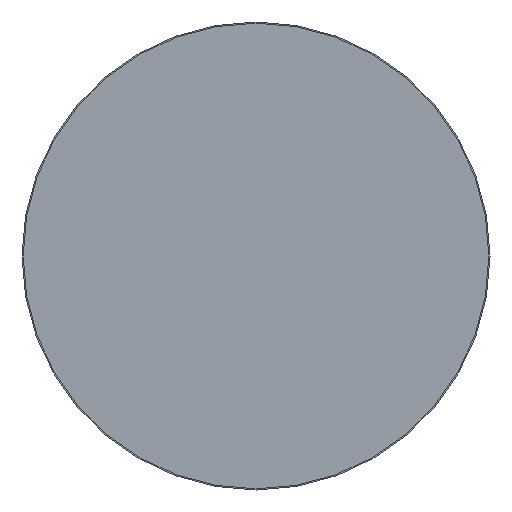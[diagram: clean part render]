
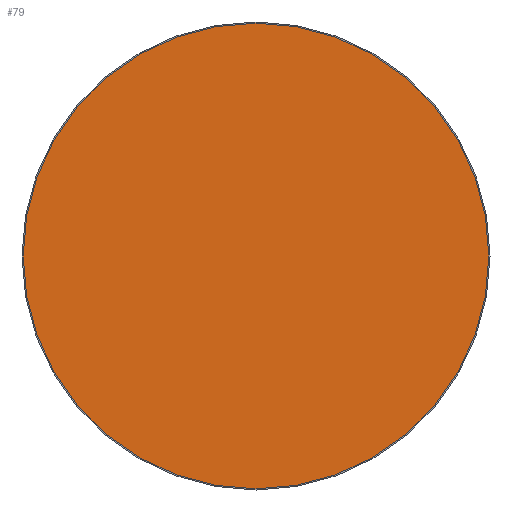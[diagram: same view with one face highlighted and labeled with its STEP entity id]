
A CAD part, front view. The second image highlights one B-rep face of the part: STEP entity #79.
In plain terms, the highlighted planar face has unit normal (0, -1, 0).
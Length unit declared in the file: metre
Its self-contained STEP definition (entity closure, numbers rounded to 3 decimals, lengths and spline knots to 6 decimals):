
#79 = ADVANCED_FACE( '', ( #92 ), #93, .T. );
#92 = FACE_OUTER_BOUND( '', #114, .T. );
#93 = PLANE( '', #115 );
#114 = EDGE_LOOP( '', ( #140 ) );
#115 = AXIS2_PLACEMENT_3D( '', #141, #142, #143 );
#140 = ORIENTED_EDGE( '', *, *, #171, .T. );
#141 = CARTESIAN_POINT( '', ( 0., 0., 0. ) );
#142 = DIRECTION( '', ( 0., -1., 0. ) );
#143 = DIRECTION( '', ( 0., 0., -1. ) );
#171 = EDGE_CURVE( '', #180, #180, #181, .T. );
#180 = VERTEX_POINT( '', #194 );
#181 = CIRCLE( '', #195, 0.0199 );
#194 = CARTESIAN_POINT( '', ( 0., 0., -0.0199 ) );
#195 = AXIS2_PLACEMENT_3D( '', #210, #211, #212 );
#210 = CARTESIAN_POINT( '', ( 0., 0., 0. ) );
#211 = DIRECTION( '', ( 0., -1., 0. ) );
#212 = DIRECTION( '', ( 0., 0., -1. ) );
